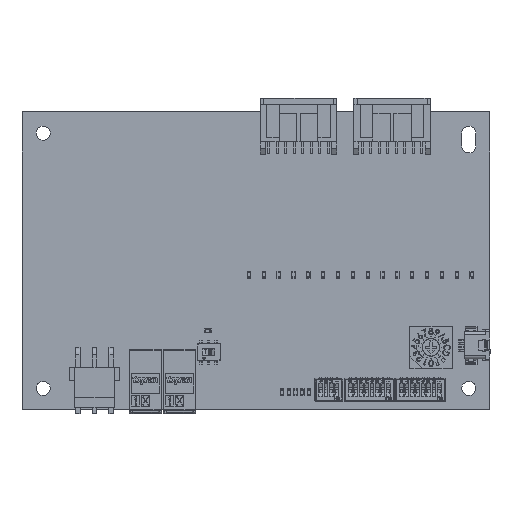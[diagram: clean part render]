
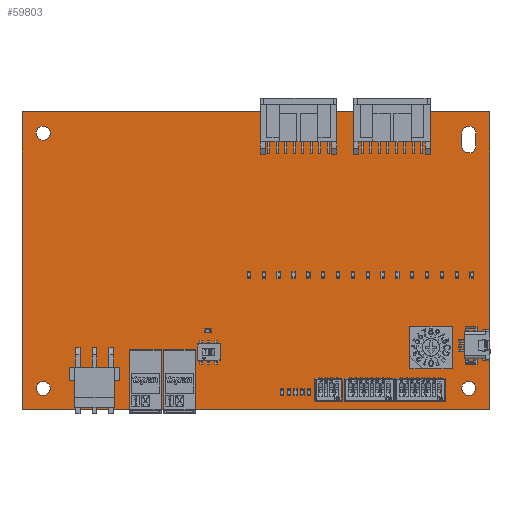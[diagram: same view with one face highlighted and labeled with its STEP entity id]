
A CAD part, top view. The second image highlights one B-rep face of the part: STEP entity #59803.
In plain terms, the highlighted planar face has unit normal (0, 0, 1).
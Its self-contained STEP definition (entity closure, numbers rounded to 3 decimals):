
#312 = DIRECTION ( 'NONE',  ( 1., 0., 0. ) ) ;
#461 = DIRECTION ( 'NONE',  ( 1., 0., 0. ) ) ;
#718 = ORIENTED_EDGE ( 'NONE', *, *, #56361, .F. ) ;
#1182 = ORIENTED_EDGE ( 'NONE', *, *, #43559, .F. ) ;
#1571 = CIRCLE ( 'NONE', #67455, 1.65 ) ;
#2546 = AXIS2_PLACEMENT_3D ( 'NONE', #28045, #52243, #58978 ) ;
#4094 = ORIENTED_EDGE ( 'NONE', *, *, #17171, .F. ) ;
#4472 = LINE ( 'NONE', #10049, #49084 ) ;
#4645 = CARTESIAN_POINT ( 'NONE',  ( 3.35, 65., 0. ) ) ;
#4902 = EDGE_CURVE ( 'NONE', #8058, #11526, #50654, .T. ) ;
#6101 = CARTESIAN_POINT ( 'NONE',  ( 105., 5., 0. ) ) ;
#6408 = CARTESIAN_POINT ( 'NONE',  ( 105., 5., 0. ) ) ;
#6664 = VERTEX_POINT ( 'NONE', #41555 ) ;
#6958 = CARTESIAN_POINT ( 'NONE',  ( 0., 0., 0. ) ) ;
#7219 = AXIS2_PLACEMENT_3D ( 'NONE', #55774, #25615, #74036 ) ;
#8058 = VERTEX_POINT ( 'NONE', #11570 ) ;
#9227 = AXIS2_PLACEMENT_3D ( 'NONE', #14978, #26861, #74900 ) ;
#10049 = CARTESIAN_POINT ( 'NONE',  ( 106.65, 65., 0. ) ) ;
#10568 = LINE ( 'NONE', #58961, #41388 ) ;
#11526 = VERTEX_POINT ( 'NONE', #20122 ) ;
#11570 = CARTESIAN_POINT ( 'NONE',  ( 106.65, 5., 0. ) ) ;
#11838 = FACE_BOUND ( 'NONE', #31546, .T. ) ;
#12482 = CARTESIAN_POINT ( 'NONE',  ( 6.65, 5., 0. ) ) ;
#13369 = AXIS2_PLACEMENT_3D ( 'NONE', #46075, #15941, #40134 ) ;
#13532 = CIRCLE ( 'NONE', #66760, 1.65 ) ;
#14978 = CARTESIAN_POINT ( 'NONE',  ( 0., 0., 0. ) ) ;
#15277 = ORIENTED_EDGE ( 'NONE', *, *, #53472, .T. ) ;
#15937 = EDGE_CURVE ( 'NONE', #69652, #36693, #24929, .T. ) ;
#15941 = DIRECTION ( 'NONE',  ( 0., 0., 1. ) ) ;
#16113 = VERTEX_POINT ( 'NONE', #76781 ) ;
#17171 = EDGE_CURVE ( 'NONE', #49336, #65304, #74516, .T. ) ;
#18467 = LINE ( 'NONE', #6958, #59299 ) ;
#18804 = CIRCLE ( 'NONE', #44115, 1.65 ) ;
#19098 = DIRECTION ( 'NONE',  ( 0., 0., 1. ) ) ;
#19338 = CARTESIAN_POINT ( 'NONE',  ( 5., 65., 0. ) ) ;
#19885 = LINE ( 'NONE', #44078, #46291 ) ;
#20122 = CARTESIAN_POINT ( 'NONE',  ( 103.35, 5., 0. ) ) ;
#20522 = PLANE ( 'NONE',  #9227 ) ;
#20876 = DIRECTION ( 'NONE',  ( 1., 0., 0. ) ) ;
#21195 = LINE ( 'NONE', #57681, #56632 ) ;
#21627 = CARTESIAN_POINT ( 'NONE',  ( 110., 0., 0. ) ) ;
#23779 = CARTESIAN_POINT ( 'NONE',  ( 103.35, 65., 0. ) ) ;
#24160 = EDGE_LOOP ( 'NONE', ( #25653, #64694, #24677, #15277 ) ) ;
#24339 = ORIENTED_EDGE ( 'NONE', *, *, #64487, .F. ) ;
#24677 = ORIENTED_EDGE ( 'NONE', *, *, #72067, .T. ) ;
#24929 = CIRCLE ( 'NONE', #7219, 1.65 ) ;
#25615 = DIRECTION ( 'NONE',  ( 0., 0., 1. ) ) ;
#25653 = ORIENTED_EDGE ( 'NONE', *, *, #45508, .T. ) ;
#25983 = DIRECTION ( 'NONE',  ( 1., 0., 0. ) ) ;
#26749 = DIRECTION ( 'NONE',  ( 0., 1., 0. ) ) ;
#26821 = CARTESIAN_POINT ( 'NONE',  ( 5., 65., 0. ) ) ;
#26861 = DIRECTION ( 'NONE',  ( 0., 0., -1. ) ) ;
#27140 = EDGE_CURVE ( 'NONE', #41128, #35045, #1571, .T. ) ;
#28045 = CARTESIAN_POINT ( 'NONE',  ( 5., 5., 0. ) ) ;
#31546 = EDGE_LOOP ( 'NONE', ( #69941, #24339 ) ) ;
#32273 = EDGE_LOOP ( 'NONE', ( #4094, #45441 ) ) ;
#34396 = EDGE_CURVE ( 'NONE', #11526, #8058, #18804, .T. ) ;
#34876 = CARTESIAN_POINT ( 'NONE',  ( 103.35, 62., 0. ) ) ;
#35045 = VERTEX_POINT ( 'NONE', #4645 ) ;
#35541 = CARTESIAN_POINT ( 'NONE',  ( 106.65, 65., 0. ) ) ;
#36186 = ORIENTED_EDGE ( 'NONE', *, *, #34396, .F. ) ;
#36348 = VERTEX_POINT ( 'NONE', #23779 ) ;
#36693 = VERTEX_POINT ( 'NONE', #42211 ) ;
#37972 = DIRECTION ( 'NONE',  ( 0., 0., 1. ) ) ;
#38132 = EDGE_CURVE ( 'NONE', #72913, #36348, #60202, .T. ) ;
#38150 = VECTOR ( 'NONE', #68499, 1000. ) ;
#38497 = DIRECTION ( 'NONE',  ( 0., -1., 0. ) ) ;
#40134 = DIRECTION ( 'NONE',  ( 1., 0., 0. ) ) ;
#40286 = AXIS2_PLACEMENT_3D ( 'NONE', #53721, #47775, #41037 ) ;
#41037 = DIRECTION ( 'NONE',  ( 1., 0., 0. ) ) ;
#41128 = VERTEX_POINT ( 'NONE', #51584 ) ;
#41388 = VECTOR ( 'NONE', #64943, 1000. ) ;
#41555 = CARTESIAN_POINT ( 'NONE',  ( 0., 70., 0. ) ) ;
#42211 = CARTESIAN_POINT ( 'NONE',  ( 106.65, 62., 0. ) ) ;
#42581 = DIRECTION ( 'NONE',  ( 1., 0., 0. ) ) ;
#43559 = EDGE_CURVE ( 'NONE', #36693, #72913, #4472, .T. ) ;
#44078 = CARTESIAN_POINT ( 'NONE',  ( 103.35, 65., 0. ) ) ;
#44115 = AXIS2_PLACEMENT_3D ( 'NONE', #6101, #73159, #42581 ) ;
#44266 = CARTESIAN_POINT ( 'NONE',  ( 0., 70., 0. ) ) ;
#45441 = ORIENTED_EDGE ( 'NONE', *, *, #77513, .F. ) ;
#45508 = EDGE_CURVE ( 'NONE', #6664, #73671, #10568, .T. ) ;
#46075 = CARTESIAN_POINT ( 'NONE',  ( 105., 65., 0. ) ) ;
#46291 = VECTOR ( 'NONE', #38497, 1000. ) ;
#47387 = ORIENTED_EDGE ( 'NONE', *, *, #15937, .F. ) ;
#47775 = DIRECTION ( 'NONE',  ( 0., 0., 1. ) ) ;
#47987 = ORIENTED_EDGE ( 'NONE', *, *, #4902, .F. ) ;
#48330 = FACE_BOUND ( 'NONE', #72346, .T. ) ;
#49084 = VECTOR ( 'NONE', #75932, 1000. ) ;
#49336 = VERTEX_POINT ( 'NONE', #12482 ) ;
#50219 = LINE ( 'NONE', #44266, #38150 ) ;
#50654 = CIRCLE ( 'NONE', #63361, 1.65 ) ;
#51584 = CARTESIAN_POINT ( 'NONE',  ( 6.65, 65., 0. ) ) ;
#52243 = DIRECTION ( 'NONE',  ( 0., 0., 1. ) ) ;
#52516 = VERTEX_POINT ( 'NONE', #21627 ) ;
#53472 = EDGE_CURVE ( 'NONE', #16113, #6664, #50219, .T. ) ;
#53721 = CARTESIAN_POINT ( 'NONE',  ( 5., 5., 0. ) ) ;
#55774 = CARTESIAN_POINT ( 'NONE',  ( 105., 62., 0. ) ) ;
#56361 = EDGE_CURVE ( 'NONE', #36348, #69652, #19885, .T. ) ;
#56632 = VECTOR ( 'NONE', #26749, 1000. ) ;
#57017 = CIRCLE ( 'NONE', #2546, 1.65 ) ;
#57362 = DIRECTION ( 'NONE',  ( 0., 0., 1. ) ) ;
#57681 = CARTESIAN_POINT ( 'NONE',  ( 110., 0., 0. ) ) ;
#58961 = CARTESIAN_POINT ( 'NONE',  ( 0., 0., 0. ) ) ;
#58978 = DIRECTION ( 'NONE',  ( 1., 0., 0. ) ) ;
#59299 = VECTOR ( 'NONE', #25983, 1000. ) ;
#59803 = ADVANCED_FACE ( 'NONE', ( #66190, #11838, #78505, #48330, #72539 ), #20522, .F. ) ;
#60202 = CIRCLE ( 'NONE', #13369, 1.65 ) ;
#63089 = CARTESIAN_POINT ( 'NONE',  ( 3.35, 5., 0. ) ) ;
#63361 = AXIS2_PLACEMENT_3D ( 'NONE', #6408, #19098, #461 ) ;
#64487 = EDGE_CURVE ( 'NONE', #35045, #41128, #13532, .T. ) ;
#64694 = ORIENTED_EDGE ( 'NONE', *, *, #73090, .T. ) ;
#64943 = DIRECTION ( 'NONE',  ( 0., -1., 0. ) ) ;
#65304 = VERTEX_POINT ( 'NONE', #63089 ) ;
#66190 = FACE_BOUND ( 'NONE', #69615, .T. ) ;
#66760 = AXIS2_PLACEMENT_3D ( 'NONE', #19338, #37972, #312 ) ;
#67455 = AXIS2_PLACEMENT_3D ( 'NONE', #26821, #57362, #20876 ) ;
#68499 = DIRECTION ( 'NONE',  ( -1., 0., 0. ) ) ;
#69615 = EDGE_LOOP ( 'NONE', ( #718, #76314, #1182, #47387 ) ) ;
#69652 = VERTEX_POINT ( 'NONE', #34876 ) ;
#69941 = ORIENTED_EDGE ( 'NONE', *, *, #27140, .F. ) ;
#72067 = EDGE_CURVE ( 'NONE', #52516, #16113, #21195, .T. ) ;
#72346 = EDGE_LOOP ( 'NONE', ( #47987, #36186 ) ) ;
#72539 = FACE_OUTER_BOUND ( 'NONE', #24160, .T. ) ;
#72913 = VERTEX_POINT ( 'NONE', #35541 ) ;
#73090 = EDGE_CURVE ( 'NONE', #73671, #52516, #18467, .T. ) ;
#73159 = DIRECTION ( 'NONE',  ( 0., 0., 1. ) ) ;
#73671 = VERTEX_POINT ( 'NONE', #77449 ) ;
#74036 = DIRECTION ( 'NONE',  ( 1., 0., 0. ) ) ;
#74516 = CIRCLE ( 'NONE', #40286, 1.65 ) ;
#74900 = DIRECTION ( 'NONE',  ( -1., 0., 0. ) ) ;
#75932 = DIRECTION ( 'NONE',  ( 0., 1., 0. ) ) ;
#76314 = ORIENTED_EDGE ( 'NONE', *, *, #38132, .F. ) ;
#76781 = CARTESIAN_POINT ( 'NONE',  ( 110., 70., 0. ) ) ;
#77449 = CARTESIAN_POINT ( 'NONE',  ( 0., 0., 0. ) ) ;
#77513 = EDGE_CURVE ( 'NONE', #65304, #49336, #57017, .T. ) ;
#78505 = FACE_BOUND ( 'NONE', #32273, .T. ) ;
